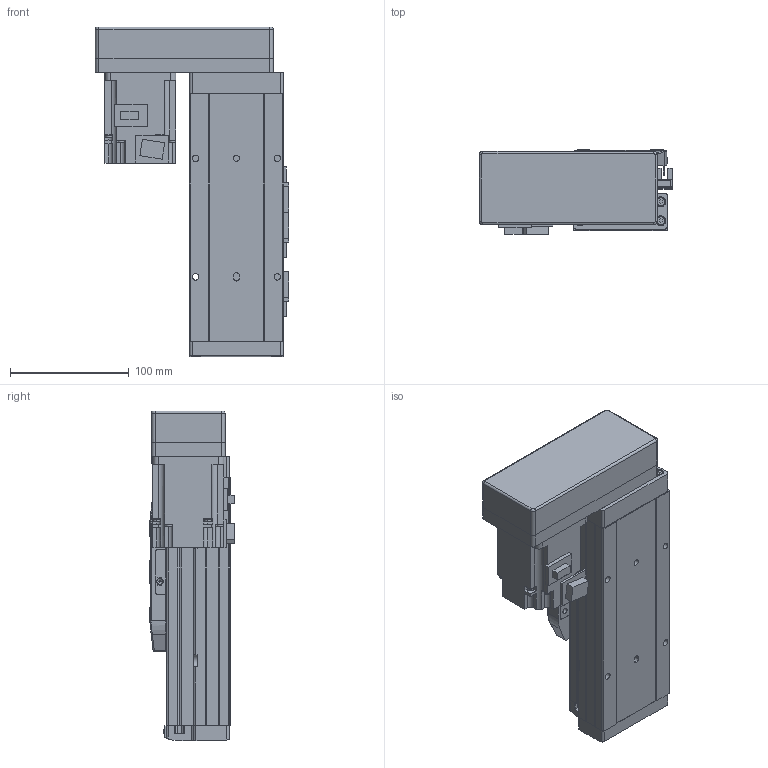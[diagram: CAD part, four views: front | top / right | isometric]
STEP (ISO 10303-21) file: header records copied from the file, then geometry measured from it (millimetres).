
FILE_DESCRIPTION (( 'STEP AP214' ), '1' );
FILE_NAME ('GSH8-50-BR-M20-1.step', '2025-01-07T06:10:27', ( '' ), ( '' ), 'SwSTEP 2.0', 'SolidWorks 2012', '' );
FILE_SCHEMA (( 'AUTOMOTIVE_DESIGN' ));
Length unit declared in the file: millimetre
Products named in the file (5): GSH8-BL-008; HG-KR23_200W_Motor; GSH8-50-BR-M20-1; GSH8-BL-011-50-M20; GSH8-GY-004
Assembly tree (4 placements, depth 2):
  GSH8-50-BR-M20-1
    GSH8-BL-011-50-M20
    GSH8-GY-004
    GSH8-BL-008
    HG-KR23_200W_Motor
Bounding box: 163 x 71.3 x 278.2 mm (x, y, z)
Volume: 1259030.5 mm3; surface area: 247196.7 mm2
Topology: 4 solids, 8 shells, 1064 faces, 2771 edges, 1779 vertices
Faces by surface type: plane 611, cylinder 357, torus 42, cone 26, bspline 24, sphere 4
Entity records: 41901 total; most frequent: CARTESIAN_POINT 9563, DIRECTION 5617, ORIENTED_EDGE 5526, EDGE_CURVE 2763, AXIS2_PLACEMENT_3D 1885, LINE 1847, VECTOR 1847, VERTEX_POINT 1775
